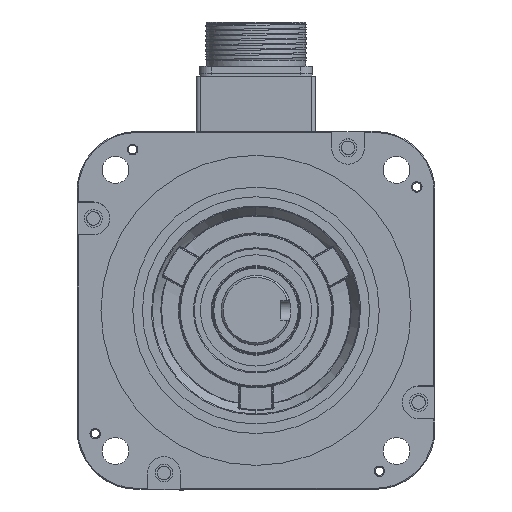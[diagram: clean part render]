
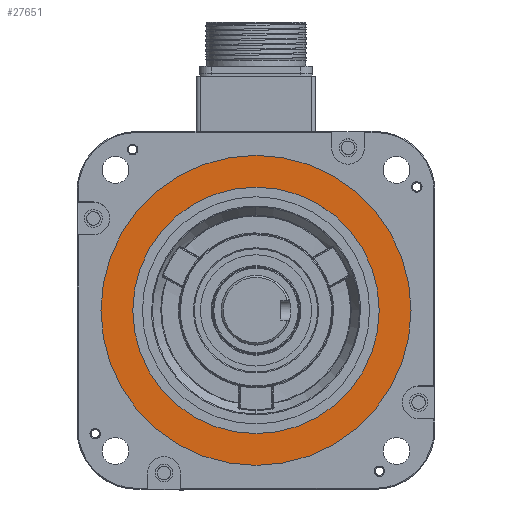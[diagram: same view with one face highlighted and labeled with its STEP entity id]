
A CAD part, top view. The second image highlights one B-rep face of the part: STEP entity #27651.
In plain terms, the highlighted planar face has unit normal (0, 0, -1).
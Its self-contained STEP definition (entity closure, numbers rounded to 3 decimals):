
#149 = CARTESIAN_POINT ( 'NONE',  ( 36.315, 219.183, 90.807 ) ) ;
#944 = CIRCLE ( 'NONE', #42035, 78. ) ;
#4105 = CARTESIAN_POINT ( 'NONE',  ( 36.315, 219.183, 90.807 ) ) ;
#4555 = VERTEX_POINT ( 'NONE', #31844 ) ;
#4627 = CIRCLE ( 'NONE', #24054, 62. ) ;
#4842 = EDGE_CURVE ( 'NONE', #43338, #36044, #4627, .T. ) ;
#7168 = DIRECTION ( 'NONE',  ( 0., 0., 1. ) ) ;
#7602 = DIRECTION ( 'NONE',  ( 1., 0., 0. ) ) ;
#8742 = ORIENTED_EDGE ( 'NONE', *, *, #23864, .F. ) ;
#10595 = ORIENTED_EDGE ( 'NONE', *, *, #29269, .F. ) ;
#10649 = CARTESIAN_POINT ( 'NONE',  ( 114.315, 219.183, 90.807 ) ) ;
#11948 = DIRECTION ( 'NONE',  ( 0., 0., 1. ) ) ;
#12617 = ORIENTED_EDGE ( 'NONE', *, *, #4842, .F. ) ;
#12806 = CARTESIAN_POINT ( 'NONE',  ( -25.685, 219.183, 90.807 ) ) ;
#13237 = DIRECTION ( 'NONE',  ( 0., 0., -1. ) ) ;
#13743 = CIRCLE ( 'NONE', #41205, 78. ) ;
#14619 = ORIENTED_EDGE ( 'NONE', *, *, #15540, .F. ) ;
#15540 = EDGE_CURVE ( 'NONE', #4555, #18457, #944, .T. ) ;
#15821 = AXIS2_PLACEMENT_3D ( 'NONE', #149, #7168, #31656 ) ;
#15852 = DIRECTION ( 'NONE',  ( 0., 0., -1. ) ) ;
#18133 = CARTESIAN_POINT ( 'NONE',  ( 98.315, 219.183, 90.807 ) ) ;
#18406 = CIRCLE ( 'NONE', #34649, 62. ) ;
#18457 = VERTEX_POINT ( 'NONE', #10649 ) ;
#23864 = EDGE_CURVE ( 'NONE', #36044, #43338, #18406, .T. ) ;
#24054 = AXIS2_PLACEMENT_3D ( 'NONE', #36886, #15852, #40428 ) ;
#27651 = ADVANCED_FACE ( 'NONE', ( #35271, #44572 ), #35062, .F. ) ;
#28244 = EDGE_LOOP ( 'NONE', ( #10595, #14619 ) ) ;
#28549 = DIRECTION ( 'NONE',  ( 0., 0., 1. ) ) ;
#29269 = EDGE_CURVE ( 'NONE', #18457, #4555, #13743, .T. ) ;
#31656 = DIRECTION ( 'NONE',  ( 1., 0., 0. ) ) ;
#31844 = CARTESIAN_POINT ( 'NONE',  ( -41.685, 219.183, 90.807 ) ) ;
#32956 = CARTESIAN_POINT ( 'NONE',  ( 36.315, 219.183, 90.807 ) ) ;
#34264 = CARTESIAN_POINT ( 'NONE',  ( 36.315, 219.183, 90.807 ) ) ;
#34649 = AXIS2_PLACEMENT_3D ( 'NONE', #34264, #13237, #37775 ) ;
#35062 = PLANE ( 'NONE',  #15821 ) ;
#35271 = FACE_OUTER_BOUND ( 'NONE', #28244, .T. ) ;
#36044 = VERTEX_POINT ( 'NONE', #12806 ) ;
#36476 = DIRECTION ( 'NONE',  ( 1., 0., 0. ) ) ;
#36886 = CARTESIAN_POINT ( 'NONE',  ( 36.315, 219.183, 90.807 ) ) ;
#37775 = DIRECTION ( 'NONE',  ( 1., 0., 0. ) ) ;
#38220 = EDGE_LOOP ( 'NONE', ( #12617, #8742 ) ) ;
#40428 = DIRECTION ( 'NONE',  ( 1., 0., 0. ) ) ;
#41205 = AXIS2_PLACEMENT_3D ( 'NONE', #4105, #28549, #7602 ) ;
#42035 = AXIS2_PLACEMENT_3D ( 'NONE', #32956, #11948, #36476 ) ;
#43338 = VERTEX_POINT ( 'NONE', #18133 ) ;
#44572 = FACE_BOUND ( 'NONE', #38220, .T. ) ;
